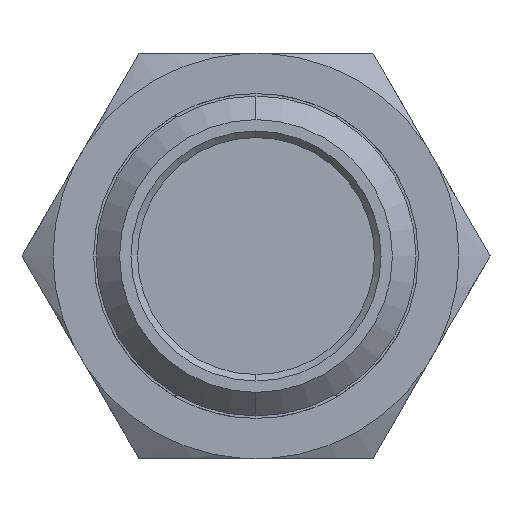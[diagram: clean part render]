
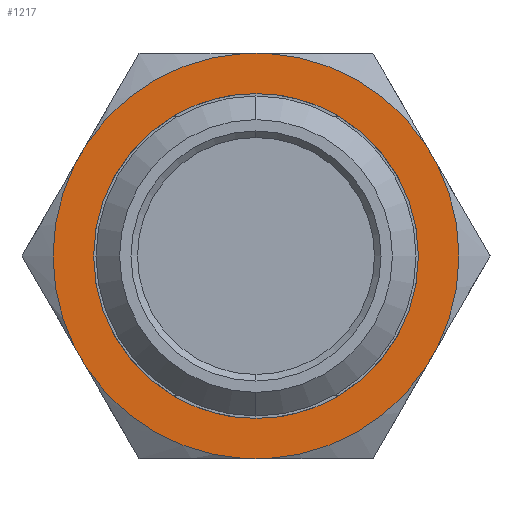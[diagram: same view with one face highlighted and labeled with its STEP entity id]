
A CAD part, left-side view. The second image highlights one B-rep face of the part: STEP entity #1217.
In plain terms, the highlighted planar face has unit normal (-1, 0, 0).
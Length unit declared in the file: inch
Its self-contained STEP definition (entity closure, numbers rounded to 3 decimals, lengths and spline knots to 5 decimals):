
#8 = VERTEX_POINT ( 'NONE', #33 ) ;
#32 = VERTEX_POINT ( 'NONE', #909 ) ;
#33 = CARTESIAN_POINT ( 'NONE',  ( 0.397, -0.13952, -0.07035 ) ) ;
#88 = CARTESIAN_POINT ( 'NONE',  ( 0.397, 0., 0. ) ) ;
#157 = VERTEX_POINT ( 'NONE', #297 ) ;
#169 = FACE_BOUND ( 'NONE', #1809, .T. ) ;
#202 = LINE ( 'NONE', #927, #775 ) ;
#209 = EDGE_CURVE ( 'NONE', #759, #2549, #2185, .T. ) ;
#222 = ORIENTED_EDGE ( 'NONE', *, *, #2665, .T. ) ;
#292 = EDGE_CURVE ( 'NONE', #1431, #759, #484, .T. ) ;
#297 = CARTESIAN_POINT ( 'NONE',  ( 0.397, -0.13068, -0.08565 ) ) ;
#309 = EDGE_CURVE ( 'NONE', #1980, #1885, #397, .T. ) ;
#323 = CIRCLE ( 'NONE', #690, 0.15625 ) ;
#339 = DIRECTION ( 'NONE',  ( 0., 0., -1. ) ) ;
#345 = CARTESIAN_POINT ( 'NONE',  ( 0.397, -0.13068, 0.08565 ) ) ;
#353 = EDGE_CURVE ( 'NONE', #157, #8, #2985, .T. ) ;
#381 = CARTESIAN_POINT ( 'NONE',  ( 0.397, 0., 0. ) ) ;
#397 = CIRCLE ( 'NONE', #2840, 0.125 ) ;
#458 = DIRECTION ( 'NONE',  ( -1., 0., 0. ) ) ;
#479 = CARTESIAN_POINT ( 'NONE',  ( 0.397, 0., 0. ) ) ;
#484 = LINE ( 'NONE', #2053, #1731 ) ;
#493 = AXIS2_PLACEMENT_3D ( 'NONE', #88, #1852, #339 ) ;
#500 = AXIS2_PLACEMENT_3D ( 'NONE', #890, #1895, #2374 ) ;
#514 = ORIENTED_EDGE ( 'NONE', *, *, #2760, .T. ) ;
#524 = DIRECTION ( 'NONE',  ( -1., 0., 0. ) ) ;
#577 = VERTEX_POINT ( 'NONE', #1123 ) ;
#622 = DIRECTION ( 'NONE',  ( 0., 0., 1. ) ) ;
#690 = AXIS2_PLACEMENT_3D ( 'NONE', #1960, #458, #2203 ) ;
#691 = EDGE_CURVE ( 'NONE', #32, #704, #2918, .T. ) ;
#704 = VERTEX_POINT ( 'NONE', #2068 ) ;
#717 = DIRECTION ( 'NONE',  ( 0., 0., -1. ) ) ;
#757 = EDGE_CURVE ( 'NONE', #577, #953, #1949, .T. ) ;
#759 = VERTEX_POINT ( 'NONE', #345 ) ;
#775 = VECTOR ( 'NONE', #2441, 39.37008 ) ;
#794 = CIRCLE ( 'NONE', #2338, 0.15625 ) ;
#882 = ORIENTED_EDGE ( 'NONE', *, *, #309, .T. ) ;
#890 = CARTESIAN_POINT ( 'NONE',  ( 0.397, 0., 0. ) ) ;
#909 = CARTESIAN_POINT ( 'NONE',  ( 0.397, 0.13068, 0.08565 ) ) ;
#912 = VECTOR ( 'NONE', #2828, 39.37008 ) ;
#927 = CARTESIAN_POINT ( 'NONE',  ( 0.397, -0.09007, 0.156 ) ) ;
#936 = VECTOR ( 'NONE', #1779, 39.37008 ) ;
#953 = VERTEX_POINT ( 'NONE', #2655 ) ;
#1036 = DIRECTION ( 'NONE',  ( 0., 0.5, 0.866 ) ) ;
#1041 = CARTESIAN_POINT ( 'NONE',  ( 0.397, 0., 0.125 ) ) ;
#1062 = ORIENTED_EDGE ( 'NONE', *, *, #691, .T. ) ;
#1069 = ORIENTED_EDGE ( 'NONE', *, *, #1634, .T. ) ;
#1100 = ORIENTED_EDGE ( 'NONE', *, *, #292, .T. ) ;
#1113 = DIRECTION ( 'NONE',  ( -1., 0., 0. ) ) ;
#1123 = CARTESIAN_POINT ( 'NONE',  ( 0.397, 0.00883, -0.156 ) ) ;
#1131 = CIRCLE ( 'NONE', #2991, 0.15625 ) ;
#1186 = EDGE_CURVE ( 'NONE', #2288, #32, #1131, .T. ) ;
#1195 = CARTESIAN_POINT ( 'NONE',  ( 0.397, 0., 0. ) ) ;
#1217 = ADVANCED_FACE ( 'NONE', ( #169, #2757 ), #2825, .F. ) ;
#1362 = AXIS2_PLACEMENT_3D ( 'NONE', #479, #2227, #717 ) ;
#1431 = VERTEX_POINT ( 'NONE', #2416 ) ;
#1447 = DIRECTION ( 'NONE',  ( 0., 0., 1. ) ) ;
#1450 = CIRCLE ( 'NONE', #2961, 0.15625 ) ;
#1453 = ORIENTED_EDGE ( 'NONE', *, *, #2785, .T. ) ;
#1501 = ORIENTED_EDGE ( 'NONE', *, *, #209, .T. ) ;
#1522 = EDGE_CURVE ( 'NONE', #704, #1669, #323, .T. ) ;
#1527 = CARTESIAN_POINT ( 'NONE',  ( 0.397, 0.13068, -0.08565 ) ) ;
#1557 = EDGE_LOOP ( 'NONE', ( #1660, #2256, #1928, #222, #2676, #1453, #1100, #1501, #514, #3005, #1062, #2146 ) ) ;
#1572 = CIRCLE ( 'NONE', #1362, 0.125 ) ;
#1605 = LINE ( 'NONE', #2264, #936 ) ;
#1634 = EDGE_CURVE ( 'NONE', #1885, #1980, #1572, .T. ) ;
#1646 = VECTOR ( 'NONE', #3016, 39.37008 ) ;
#1660 = ORIENTED_EDGE ( 'NONE', *, *, #3059, .T. ) ;
#1669 = VERTEX_POINT ( 'NONE', #2491 ) ;
#1731 = VECTOR ( 'NONE', #1036, 39.37008 ) ;
#1779 = DIRECTION ( 'NONE',  ( 0., -0.5, -0.866 ) ) ;
#1809 = EDGE_LOOP ( 'NONE', ( #882, #1069 ) ) ;
#1816 = CARTESIAN_POINT ( 'NONE',  ( 0.397, 0.09007, 0.156 ) ) ;
#1817 = CARTESIAN_POINT ( 'NONE',  ( 0.397, 0., -0.125 ) ) ;
#1852 = DIRECTION ( 'NONE',  ( 1., 0., 0. ) ) ;
#1885 = VERTEX_POINT ( 'NONE', #1817 ) ;
#1895 = DIRECTION ( 'NONE',  ( -1., 0., 0. ) ) ;
#1928 = ORIENTED_EDGE ( 'NONE', *, *, #757, .T. ) ;
#1949 = LINE ( 'NONE', #2849, #2527 ) ;
#1960 = CARTESIAN_POINT ( 'NONE',  ( 0.397, 0., 0. ) ) ;
#1980 = VERTEX_POINT ( 'NONE', #1041 ) ;
#2012 = CARTESIAN_POINT ( 'NONE',  ( 0.397, 0., 0. ) ) ;
#2018 = DIRECTION ( 'NONE',  ( 0., 0., -1. ) ) ;
#2028 = CARTESIAN_POINT ( 'NONE',  ( 0.397, 0., 0. ) ) ;
#2053 = CARTESIAN_POINT ( 'NONE',  ( 0.397, -0.18013, 0. ) ) ;
#2068 = CARTESIAN_POINT ( 'NONE',  ( 0.397, 0.13952, 0.07035 ) ) ;
#2121 = DIRECTION ( 'NONE',  ( -1., 0., 0. ) ) ;
#2123 = DIRECTION ( 'NONE',  ( 1., 0., 0. ) ) ;
#2136 = CIRCLE ( 'NONE', #2182, 0.15625 ) ;
#2146 = ORIENTED_EDGE ( 'NONE', *, *, #1522, .T. ) ;
#2182 = AXIS2_PLACEMENT_3D ( 'NONE', #381, #2121, #622 ) ;
#2185 = CIRCLE ( 'NONE', #500, 0.15625 ) ;
#2203 = DIRECTION ( 'NONE',  ( 0., 0., 1. ) ) ;
#2227 = DIRECTION ( 'NONE',  ( 1., 0., 0. ) ) ;
#2256 = ORIENTED_EDGE ( 'NONE', *, *, #2657, .T. ) ;
#2262 = DIRECTION ( 'NONE',  ( 0., 0., 1. ) ) ;
#2264 = CARTESIAN_POINT ( 'NONE',  ( 0.397, 0.18013, 0. ) ) ;
#2288 = VERTEX_POINT ( 'NONE', #2636 ) ;
#2338 = AXIS2_PLACEMENT_3D ( 'NONE', #2629, #1113, #2882 ) ;
#2342 = CARTESIAN_POINT ( 'NONE',  ( 0.397, -0.00883, 0.156 ) ) ;
#2374 = DIRECTION ( 'NONE',  ( 0., 0., 1. ) ) ;
#2416 = CARTESIAN_POINT ( 'NONE',  ( 0.397, -0.13952, 0.07035 ) ) ;
#2441 = DIRECTION ( 'NONE',  ( 0., 1., 0. ) ) ;
#2491 = CARTESIAN_POINT ( 'NONE',  ( 0.397, 0.13952, -0.07035 ) ) ;
#2527 = VECTOR ( 'NONE', #2590, 39.37008 ) ;
#2549 = VERTEX_POINT ( 'NONE', #2342 ) ;
#2590 = DIRECTION ( 'NONE',  ( 0., -1., 0. ) ) ;
#2629 = CARTESIAN_POINT ( 'NONE',  ( 0.397, 0., 0. ) ) ;
#2636 = CARTESIAN_POINT ( 'NONE',  ( 0.397, 0.00883, 0.156 ) ) ;
#2655 = CARTESIAN_POINT ( 'NONE',  ( 0.397, -0.00883, -0.156 ) ) ;
#2657 = EDGE_CURVE ( 'NONE', #3065, #577, #2136, .T. ) ;
#2665 = EDGE_CURVE ( 'NONE', #953, #157, #794, .T. ) ;
#2676 = ORIENTED_EDGE ( 'NONE', *, *, #353, .T. ) ;
#2757 = FACE_OUTER_BOUND ( 'NONE', #1557, .T. ) ;
#2760 = EDGE_CURVE ( 'NONE', #2549, #2288, #202, .T. ) ;
#2771 = CARTESIAN_POINT ( 'NONE',  ( 0.397, -0.09007, -0.156 ) ) ;
#2785 = EDGE_CURVE ( 'NONE', #8, #1431, #1450, .T. ) ;
#2825 = PLANE ( 'NONE',  #493 ) ;
#2828 = DIRECTION ( 'NONE',  ( 0., 0.5, -0.866 ) ) ;
#2840 = AXIS2_PLACEMENT_3D ( 'NONE', #2028, #2123, #2018 ) ;
#2849 = CARTESIAN_POINT ( 'NONE',  ( 0.397, 0.09007, -0.156 ) ) ;
#2882 = DIRECTION ( 'NONE',  ( 0., 0., 1. ) ) ;
#2918 = LINE ( 'NONE', #1816, #912 ) ;
#2948 = DIRECTION ( 'NONE',  ( -1., 0., 0. ) ) ;
#2961 = AXIS2_PLACEMENT_3D ( 'NONE', #1195, #2948, #1447 ) ;
#2985 = LINE ( 'NONE', #2771, #1646 ) ;
#2991 = AXIS2_PLACEMENT_3D ( 'NONE', #2012, #524, #2262 ) ;
#3005 = ORIENTED_EDGE ( 'NONE', *, *, #1186, .T. ) ;
#3016 = DIRECTION ( 'NONE',  ( 0., -0.5, 0.866 ) ) ;
#3059 = EDGE_CURVE ( 'NONE', #1669, #3065, #1605, .T. ) ;
#3065 = VERTEX_POINT ( 'NONE', #1527 ) ;
